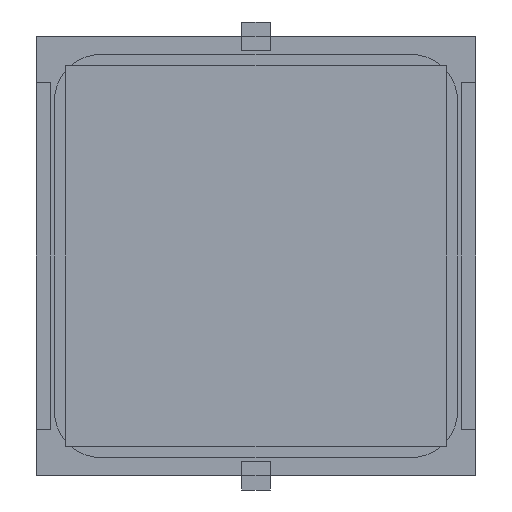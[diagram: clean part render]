
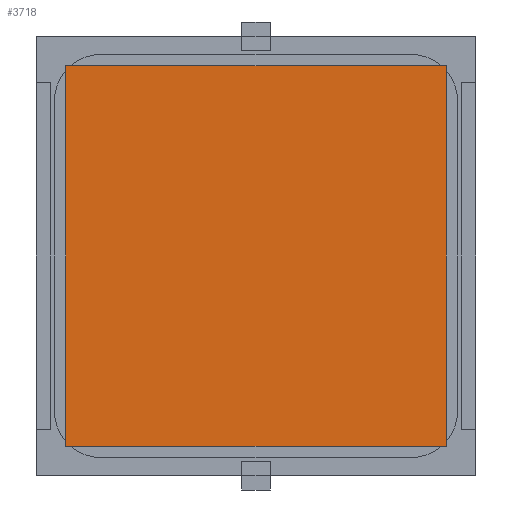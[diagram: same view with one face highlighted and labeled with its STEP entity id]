
A CAD part, front view. The second image highlights one B-rep face of the part: STEP entity #3718.
In plain terms, the highlighted planar face has unit normal (0, -1, 0).
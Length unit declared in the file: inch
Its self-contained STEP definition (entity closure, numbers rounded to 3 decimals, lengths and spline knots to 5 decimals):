
#126 = ORIENTED_EDGE ( 'NONE', *, *, #5587, .F. ) ;
#151 = CARTESIAN_POINT ( 'NONE',  ( 0.5315, -0.005, -0.5315 ) ) ;
#552 = DIRECTION ( 'NONE',  ( -1., 0., 0. ) ) ;
#919 = AXIS2_PLACEMENT_3D ( 'NONE', #934, #8896, #6240 ) ;
#934 = CARTESIAN_POINT ( 'NONE',  ( -0.5315, -0.005, 0.5315 ) ) ;
#946 = EDGE_CURVE ( 'NONE', #6026, #8408, #5230, .T. ) ;
#1310 = LINE ( 'NONE', #4892, #6543 ) ;
#2188 = ORIENTED_EDGE ( 'NONE', *, *, #946, .F. ) ;
#2764 = DIRECTION ( 'NONE',  ( 0., 0., -1. ) ) ;
#3174 = EDGE_CURVE ( 'NONE', #8188, #9926, #1310, .T. ) ;
#3718 = ADVANCED_FACE ( 'NONE', ( #8121 ), #10711, .F. ) ;
#3895 = VECTOR ( 'NONE', #2764, 39.37008 ) ;
#4521 = EDGE_LOOP ( 'NONE', ( #11208, #11562, #126, #2188 ) ) ;
#4725 = CARTESIAN_POINT ( 'NONE',  ( -0.5315, -0.005, 0.5315 ) ) ;
#4892 = CARTESIAN_POINT ( 'NONE',  ( -0.5315, -0.005, -0.5315 ) ) ;
#4990 = EDGE_CURVE ( 'NONE', #9926, #6026, #10365, .T. ) ;
#5012 = CARTESIAN_POINT ( 'NONE',  ( -0.5315, -0.005, -0.5315 ) ) ;
#5230 = LINE ( 'NONE', #8687, #5776 ) ;
#5587 = EDGE_CURVE ( 'NONE', #8408, #8188, #10039, .T. ) ;
#5776 = VECTOR ( 'NONE', #6976, 39.37008 ) ;
#6026 = VERTEX_POINT ( 'NONE', #4725 ) ;
#6240 = DIRECTION ( 'NONE',  ( 0., 0., 1. ) ) ;
#6543 = VECTOR ( 'NONE', #552, 39.37008 ) ;
#6976 = DIRECTION ( 'NONE',  ( 1., 0., 0. ) ) ;
#8121 = FACE_OUTER_BOUND ( 'NONE', #4521, .T. ) ;
#8188 = VERTEX_POINT ( 'NONE', #9294 ) ;
#8408 = VERTEX_POINT ( 'NONE', #11286 ) ;
#8551 = VECTOR ( 'NONE', #10473, 39.37008 ) ;
#8687 = CARTESIAN_POINT ( 'NONE',  ( -0.5315, -0.005, 0.5315 ) ) ;
#8896 = DIRECTION ( 'NONE',  ( 0., 1., 0. ) ) ;
#9294 = CARTESIAN_POINT ( 'NONE',  ( 0.5315, -0.005, -0.5315 ) ) ;
#9476 = CARTESIAN_POINT ( 'NONE',  ( -0.5315, -0.005, -0.5315 ) ) ;
#9926 = VERTEX_POINT ( 'NONE', #5012 ) ;
#10039 = LINE ( 'NONE', #151, #3895 ) ;
#10365 = LINE ( 'NONE', #9476, #8551 ) ;
#10473 = DIRECTION ( 'NONE',  ( 0., 0., 1. ) ) ;
#10711 = PLANE ( 'NONE',  #919 ) ;
#11208 = ORIENTED_EDGE ( 'NONE', *, *, #4990, .F. ) ;
#11286 = CARTESIAN_POINT ( 'NONE',  ( 0.5315, -0.005, 0.5315 ) ) ;
#11562 = ORIENTED_EDGE ( 'NONE', *, *, #3174, .F. ) ;
